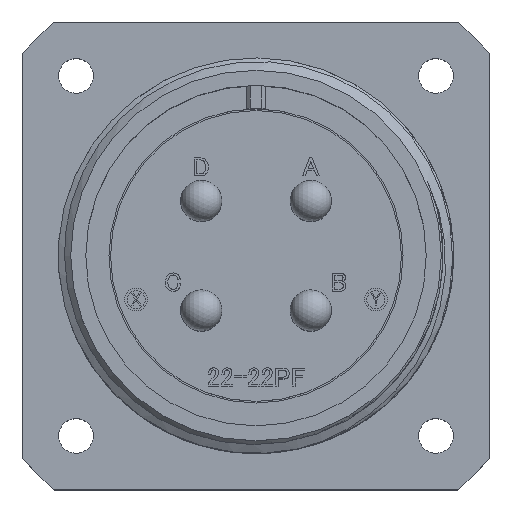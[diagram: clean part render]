
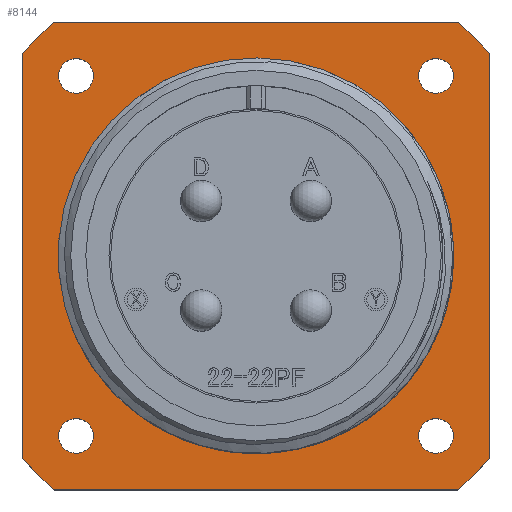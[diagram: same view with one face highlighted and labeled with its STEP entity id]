
A CAD part, top view. The second image highlights one B-rep face of the part: STEP entity #8144.
In plain terms, the highlighted planar face has unit normal (0, 0, 1).
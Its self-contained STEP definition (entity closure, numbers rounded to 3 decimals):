
#219 = EDGE_LOOP ( 'NONE', ( #17297 ) ) ;
#244 = CARTESIAN_POINT ( 'NONE',  ( -20.635, -20.635, -19.2 ) ) ;
#574 = VERTEX_POINT ( 'NONE', #3912 ) ;
#603 = AXIS2_PLACEMENT_3D ( 'NONE', #8127, #6155, #20631 ) ;
#687 = CIRCLE ( 'NONE', #603, 1.525 ) ;
#689 = FACE_BOUND ( 'NONE', #7703, .T. ) ;
#917 = EDGE_CURVE ( 'NONE', #15770, #15770, #4720, .T. ) ;
#1205 = AXIS2_PLACEMENT_3D ( 'NONE', #2909, #2718, #17220 ) ;
#1219 = EDGE_CURVE ( 'NONE', #3927, #19510, #3093, .T. ) ;
#1330 = FACE_BOUND ( 'NONE', #3559, .T. ) ;
#1377 = CARTESIAN_POINT ( 'NONE',  ( 20.635, 20.635, -19.2 ) ) ;
#1457 = DIRECTION ( 'NONE',  ( 1., 0., 0. ) ) ;
#1652 = VERTEX_POINT ( 'NONE', #11926 ) ;
#1796 = ORIENTED_EDGE ( 'NONE', *, *, #23866, .F. ) ;
#2718 = DIRECTION ( 'NONE',  ( 0., 0., 1. ) ) ;
#2778 = VECTOR ( 'NONE', #26290, 1000. ) ;
#2835 = VECTOR ( 'NONE', #18478, 1000. ) ;
#2909 = CARTESIAN_POINT ( 'NONE',  ( 0., 0., -19.2 ) ) ;
#3093 = LINE ( 'NONE', #1377, #2778 ) ;
#3356 = ORIENTED_EDGE ( 'NONE', *, *, #1219, .T. ) ;
#3471 = EDGE_LOOP ( 'NONE', ( #1796 ) ) ;
#3559 = EDGE_LOOP ( 'NONE', ( #23688 ) ) ;
#3908 = CARTESIAN_POINT ( 'NONE',  ( 0., 0., -19.2 ) ) ;
#3912 = CARTESIAN_POINT ( 'NONE',  ( 17.44, 0., -19.2 ) ) ;
#3927 = VERTEX_POINT ( 'NONE', #23255 ) ;
#3954 = EDGE_CURVE ( 'NONE', #574, #574, #15799, .T. ) ;
#4371 = EDGE_LOOP ( 'NONE', ( #25821 ) ) ;
#4720 = CIRCLE ( 'NONE', #6291, 1.525 ) ;
#4722 = EDGE_CURVE ( 'NONE', #12198, #19510, #25866, .T. ) ;
#5046 = DIRECTION ( 'NONE',  ( 0., 0., 1. ) ) ;
#5139 = CARTESIAN_POINT ( 'NONE',  ( 15.875, 15.875, -19.2 ) ) ;
#5991 = VERTEX_POINT ( 'NONE', #14609 ) ;
#6077 = CARTESIAN_POINT ( 'NONE',  ( -20.635, -17.798, -19.2 ) ) ;
#6155 = DIRECTION ( 'NONE',  ( 0., 0., 1. ) ) ;
#6291 = AXIS2_PLACEMENT_3D ( 'NONE', #5139, #5046, #23809 ) ;
#6342 = DIRECTION ( 'NONE',  ( 1., 0., 0. ) ) ;
#6457 = LINE ( 'NONE', #15612, #25894 ) ;
#6460 = ORIENTED_EDGE ( 'NONE', *, *, #20559, .T. ) ;
#6898 = EDGE_CURVE ( 'NONE', #12198, #5991, #13488, .T. ) ;
#7040 = ORIENTED_EDGE ( 'NONE', *, *, #3954, .F. ) ;
#7146 = CIRCLE ( 'NONE', #8566, 1.525 ) ;
#7148 = CIRCLE ( 'NONE', #18861, 27.25 ) ;
#7219 = DIRECTION ( 'NONE',  ( 0., 0., 1. ) ) ;
#7335 = VERTEX_POINT ( 'NONE', #8070 ) ;
#7703 = EDGE_LOOP ( 'NONE', ( #7040 ) ) ;
#8070 = CARTESIAN_POINT ( 'NONE',  ( 17.4, -15.875, -19.2 ) ) ;
#8098 = EDGE_CURVE ( 'NONE', #14461, #23991, #7148, .T. ) ;
#8127 = CARTESIAN_POINT ( 'NONE',  ( -15.875, -15.875, -19.2 ) ) ;
#8144 = ADVANCED_FACE ( 'NONE', ( #23394, #1330, #11667, #12324, #17210, #689 ), #14205, .T. ) ;
#8161 = DIRECTION ( 'NONE',  ( 1., 0., 0. ) ) ;
#8566 = AXIS2_PLACEMENT_3D ( 'NONE', #23638, #7219, #9296 ) ;
#8605 = AXIS2_PLACEMENT_3D ( 'NONE', #10053, #12313, #8161 ) ;
#8839 = ORIENTED_EDGE ( 'NONE', *, *, #8098, .F. ) ;
#8897 = CARTESIAN_POINT ( 'NONE',  ( -20.635, 17.798, -19.2 ) ) ;
#9296 = DIRECTION ( 'NONE',  ( 1., 0., 0. ) ) ;
#10053 = CARTESIAN_POINT ( 'NONE',  ( 0., 0., -19.2 ) ) ;
#10325 = CARTESIAN_POINT ( 'NONE',  ( 17.4, 15.875, -19.2 ) ) ;
#10378 = AXIS2_PLACEMENT_3D ( 'NONE', #26291, #13828, #1457 ) ;
#11435 = EDGE_CURVE ( 'NONE', #17634, #5991, #26351, .T. ) ;
#11517 = DIRECTION ( 'NONE',  ( 0., -1., 0. ) ) ;
#11667 = FACE_BOUND ( 'NONE', #3471, .T. ) ;
#11926 = CARTESIAN_POINT ( 'NONE',  ( 17.798, -20.635, -19.2 ) ) ;
#12122 = CARTESIAN_POINT ( 'NONE',  ( -14.35, -15.875, -19.2 ) ) ;
#12198 = VERTEX_POINT ( 'NONE', #21871 ) ;
#12300 = EDGE_CURVE ( 'NONE', #3927, #1652, #15589, .T. ) ;
#12313 = DIRECTION ( 'NONE',  ( 0., 0., 1. ) ) ;
#12324 = FACE_BOUND ( 'NONE', #4371, .T. ) ;
#13488 = LINE ( 'NONE', #18302, #2835 ) ;
#13828 = DIRECTION ( 'NONE',  ( 0., 0., 1. ) ) ;
#14205 = PLANE ( 'NONE',  #8605 ) ;
#14209 = CARTESIAN_POINT ( 'NONE',  ( -14.35, 15.875, -19.2 ) ) ;
#14450 = ORIENTED_EDGE ( 'NONE', *, *, #11435, .F. ) ;
#14461 = VERTEX_POINT ( 'NONE', #22118 ) ;
#14609 = CARTESIAN_POINT ( 'NONE',  ( -17.798, 20.635, -19.2 ) ) ;
#14619 = EDGE_CURVE ( 'NONE', #18373, #18373, #687, .T. ) ;
#14804 = EDGE_CURVE ( 'NONE', #20299, #20299, #7146, .T. ) ;
#14979 = AXIS2_PLACEMENT_3D ( 'NONE', #24954, #22795, #26874 ) ;
#15589 = CIRCLE ( 'NONE', #25038, 27.25 ) ;
#15612 = CARTESIAN_POINT ( 'NONE',  ( -20.635, 20.635, -19.2 ) ) ;
#15770 = VERTEX_POINT ( 'NONE', #10325 ) ;
#15799 = CIRCLE ( 'NONE', #1205, 17.44 ) ;
#16717 = LINE ( 'NONE', #244, #19619 ) ;
#17210 = FACE_OUTER_BOUND ( 'NONE', #24518, .T. ) ;
#17220 = DIRECTION ( 'NONE',  ( 1., 0., 0. ) ) ;
#17297 = ORIENTED_EDGE ( 'NONE', *, *, #14804, .F. ) ;
#17345 = EDGE_CURVE ( 'NONE', #17634, #23991, #6457, .T. ) ;
#17634 = VERTEX_POINT ( 'NONE', #8897 ) ;
#18056 = DIRECTION ( 'NONE',  ( 1., 0., 0. ) ) ;
#18302 = CARTESIAN_POINT ( 'NONE',  ( -20.635, 20.635, -19.2 ) ) ;
#18373 = VERTEX_POINT ( 'NONE', #12122 ) ;
#18410 = DIRECTION ( 'NONE',  ( 1., 0., 0. ) ) ;
#18478 = DIRECTION ( 'NONE',  ( -1., 0., 0. ) ) ;
#18755 = CARTESIAN_POINT ( 'NONE',  ( 0., 0., -19.2 ) ) ;
#18861 = AXIS2_PLACEMENT_3D ( 'NONE', #22146, #20289, #18056 ) ;
#18906 = DIRECTION ( 'NONE',  ( 1., 0., 0. ) ) ;
#19510 = VERTEX_POINT ( 'NONE', #21703 ) ;
#19619 = VECTOR ( 'NONE', #18906, 1000. ) ;
#19971 = ORIENTED_EDGE ( 'NONE', *, *, #4722, .F. ) ;
#20075 = CIRCLE ( 'NONE', #10378, 1.525 ) ;
#20289 = DIRECTION ( 'NONE',  ( 0., 0., -1. ) ) ;
#20299 = VERTEX_POINT ( 'NONE', #14209 ) ;
#20490 = ORIENTED_EDGE ( 'NONE', *, *, #6898, .T. ) ;
#20559 = EDGE_CURVE ( 'NONE', #14461, #1652, #16717, .T. ) ;
#20631 = DIRECTION ( 'NONE',  ( 1., 0., 0. ) ) ;
#21007 = DIRECTION ( 'NONE',  ( 0., 0., -1. ) ) ;
#21703 = CARTESIAN_POINT ( 'NONE',  ( 20.635, 17.798, -19.2 ) ) ;
#21871 = CARTESIAN_POINT ( 'NONE',  ( 17.798, 20.635, -19.2 ) ) ;
#22118 = CARTESIAN_POINT ( 'NONE',  ( -17.798, -20.635, -19.2 ) ) ;
#22146 = CARTESIAN_POINT ( 'NONE',  ( 0., 0., -19.2 ) ) ;
#22371 = ORIENTED_EDGE ( 'NONE', *, *, #12300, .F. ) ;
#22795 = DIRECTION ( 'NONE',  ( 0., 0., -1. ) ) ;
#22796 = AXIS2_PLACEMENT_3D ( 'NONE', #18755, #21007, #6342 ) ;
#23255 = CARTESIAN_POINT ( 'NONE',  ( 20.635, -17.798, -19.2 ) ) ;
#23394 = FACE_BOUND ( 'NONE', #219, .T. ) ;
#23638 = CARTESIAN_POINT ( 'NONE',  ( -15.875, 15.875, -19.2 ) ) ;
#23688 = ORIENTED_EDGE ( 'NONE', *, *, #917, .F. ) ;
#23809 = DIRECTION ( 'NONE',  ( 1., 0., 0. ) ) ;
#23866 = EDGE_CURVE ( 'NONE', #7335, #7335, #20075, .T. ) ;
#23991 = VERTEX_POINT ( 'NONE', #6077 ) ;
#24518 = EDGE_LOOP ( 'NONE', ( #19971, #20490, #14450, #26054, #8839, #6460, #22371, #3356 ) ) ;
#24566 = DIRECTION ( 'NONE',  ( 0., 0., -1. ) ) ;
#24954 = CARTESIAN_POINT ( 'NONE',  ( 0., 0., -19.2 ) ) ;
#25038 = AXIS2_PLACEMENT_3D ( 'NONE', #3908, #24566, #18410 ) ;
#25821 = ORIENTED_EDGE ( 'NONE', *, *, #14619, .F. ) ;
#25866 = CIRCLE ( 'NONE', #14979, 27.25 ) ;
#25894 = VECTOR ( 'NONE', #11517, 1000. ) ;
#26054 = ORIENTED_EDGE ( 'NONE', *, *, #17345, .T. ) ;
#26290 = DIRECTION ( 'NONE',  ( 0., 1., 0. ) ) ;
#26291 = CARTESIAN_POINT ( 'NONE',  ( 15.875, -15.875, -19.2 ) ) ;
#26351 = CIRCLE ( 'NONE', #22796, 27.25 ) ;
#26874 = DIRECTION ( 'NONE',  ( 1., 0., 0. ) ) ;
